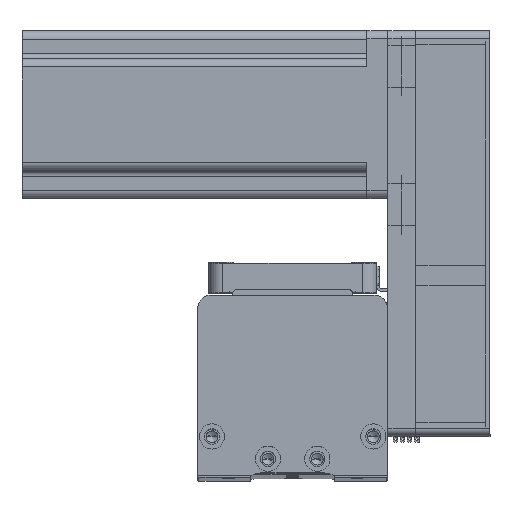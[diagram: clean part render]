
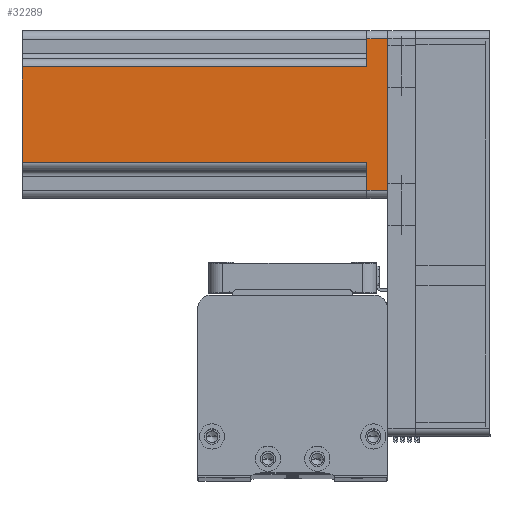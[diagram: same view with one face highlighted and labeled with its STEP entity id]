
A CAD part, top view. The second image highlights one B-rep face of the part: STEP entity #32289.
In plain terms, the highlighted planar face has unit normal (0, 0, 1) as drawn and (0, -1, 0) by its records, which use the part's own axes.
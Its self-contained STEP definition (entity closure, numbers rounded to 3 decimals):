
#921 = CARTESIAN_POINT ( 'NONE',  ( 17., -30., 130.7 ) ) ;
#991 = DIRECTION ( 'NONE',  ( 1., 0., 0. ) ) ;
#1048 = VECTOR ( 'NONE', #4912, 1000. ) ;
#2052 = EDGE_LOOP ( 'NONE', ( #28127, #19790, #37851, #24280, #30450, #24066, #8667, #41159 ) ) ;
#2693 = EDGE_CURVE ( 'NONE', #33936, #14626, #32953, .T. ) ;
#2807 = VERTEX_POINT ( 'NONE', #38438 ) ;
#2877 = VECTOR ( 'NONE', #41550, 1000. ) ;
#4114 = DIRECTION ( 'NONE',  ( 1., 0., 0. ) ) ;
#4196 = VECTOR ( 'NONE', #25705, 1000. ) ;
#4912 = DIRECTION ( 'NONE',  ( 1., 0., 0. ) ) ;
#5915 = DIRECTION ( 'NONE',  ( 0., 0., -1. ) ) ;
#6934 = VECTOR ( 'NONE', #5915, 1000. ) ;
#6975 = DIRECTION ( 'NONE',  ( 0., 1., 0. ) ) ;
#7446 = EDGE_CURVE ( 'NONE', #18875, #18032, #21454, .T. ) ;
#7743 = EDGE_CURVE ( 'NONE', #35186, #18875, #26287, .T. ) ;
#8667 = ORIENTED_EDGE ( 'NONE', *, *, #7446, .T. ) ;
#11306 = CARTESIAN_POINT ( 'NONE',  ( 27., -30., 7.5 ) ) ;
#11691 = EDGE_CURVE ( 'NONE', #16607, #35186, #12209, .T. ) ;
#11995 = VECTOR ( 'NONE', #28846, 1000. ) ;
#12209 = LINE ( 'NONE', #28921, #29598 ) ;
#12790 = CARTESIAN_POINT ( 'NONE',  ( -27., -30., 130.7 ) ) ;
#14626 = VERTEX_POINT ( 'NONE', #40266 ) ;
#16208 = LINE ( 'NONE', #12790, #6934 ) ;
#16310 = VERTEX_POINT ( 'NONE', #36191 ) ;
#16607 = VERTEX_POINT ( 'NONE', #45198 ) ;
#17142 = CARTESIAN_POINT ( 'NONE',  ( 20., -30., 7.5 ) ) ;
#18032 = VERTEX_POINT ( 'NONE', #34314 ) ;
#18732 = CARTESIAN_POINT ( 'NONE',  ( -17., -30., 130.7 ) ) ;
#18875 = VERTEX_POINT ( 'NONE', #11306 ) ;
#19652 = LINE ( 'NONE', #32795, #1048 ) ;
#19790 = ORIENTED_EDGE ( 'NONE', *, *, #27147, .T. ) ;
#19810 = EDGE_CURVE ( 'NONE', #18032, #14626, #28301, .T. ) ;
#21454 = LINE ( 'NONE', #17142, #2877 ) ;
#22012 = CARTESIAN_POINT ( 'NONE',  ( 27., -30., 0. ) ) ;
#22740 = LINE ( 'NONE', #18732, #4196 ) ;
#24066 = ORIENTED_EDGE ( 'NONE', *, *, #7743, .T. ) ;
#24280 = ORIENTED_EDGE ( 'NONE', *, *, #43585, .T. ) ;
#25176 = VECTOR ( 'NONE', #41436, 1000. ) ;
#25293 = AXIS2_PLACEMENT_3D ( 'NONE', #27850, #6975, #31333 ) ;
#25705 = DIRECTION ( 'NONE',  ( 0., 0., -1. ) ) ;
#26287 = LINE ( 'NONE', #30885, #25176 ) ;
#27147 = EDGE_CURVE ( 'NONE', #33936, #16310, #22740, .T. ) ;
#27850 = CARTESIAN_POINT ( 'NONE',  ( 30., -30., 130.7 ) ) ;
#28127 = ORIENTED_EDGE ( 'NONE', *, *, #2693, .F. ) ;
#28301 = LINE ( 'NONE', #921, #11995 ) ;
#28502 = CARTESIAN_POINT ( 'NONE',  ( 30., -30., 130.7 ) ) ;
#28846 = DIRECTION ( 'NONE',  ( 0., 0., 1. ) ) ;
#28921 = CARTESIAN_POINT ( 'NONE',  ( 30., -30., 0. ) ) ;
#29598 = VECTOR ( 'NONE', #991, 1000. ) ;
#30450 = ORIENTED_EDGE ( 'NONE', *, *, #11691, .T. ) ;
#30885 = CARTESIAN_POINT ( 'NONE',  ( 27., -30., 130.7 ) ) ;
#31167 = PLANE ( 'NONE',  #25293 ) ;
#31272 = CARTESIAN_POINT ( 'NONE',  ( -17., -30., 130.7 ) ) ;
#31333 = DIRECTION ( 'NONE',  ( -1., 0., 0. ) ) ;
#31864 = VECTOR ( 'NONE', #4114, 1000. ) ;
#32289 = ADVANCED_FACE ( 'NONE', ( #34032 ), #31167, .F. ) ;
#32795 = CARTESIAN_POINT ( 'NONE',  ( -20., -30., 7.5 ) ) ;
#32953 = LINE ( 'NONE', #28502, #31864 ) ;
#33936 = VERTEX_POINT ( 'NONE', #31272 ) ;
#34032 = FACE_OUTER_BOUND ( 'NONE', #2052, .T. ) ;
#34139 = EDGE_CURVE ( 'NONE', #2807, #16310, #19652, .T. ) ;
#34314 = CARTESIAN_POINT ( 'NONE',  ( 17., -30., 7.5 ) ) ;
#35186 = VERTEX_POINT ( 'NONE', #22012 ) ;
#36191 = CARTESIAN_POINT ( 'NONE',  ( -17., -30., 7.5 ) ) ;
#37851 = ORIENTED_EDGE ( 'NONE', *, *, #34139, .F. ) ;
#38438 = CARTESIAN_POINT ( 'NONE',  ( -27., -30., 7.5 ) ) ;
#40266 = CARTESIAN_POINT ( 'NONE',  ( 17., -30., 130.7 ) ) ;
#41159 = ORIENTED_EDGE ( 'NONE', *, *, #19810, .T. ) ;
#41436 = DIRECTION ( 'NONE',  ( 0., 0., 1. ) ) ;
#41550 = DIRECTION ( 'NONE',  ( -1., 0., 0. ) ) ;
#43585 = EDGE_CURVE ( 'NONE', #2807, #16607, #16208, .T. ) ;
#45198 = CARTESIAN_POINT ( 'NONE',  ( -27., -30., 0. ) ) ;
